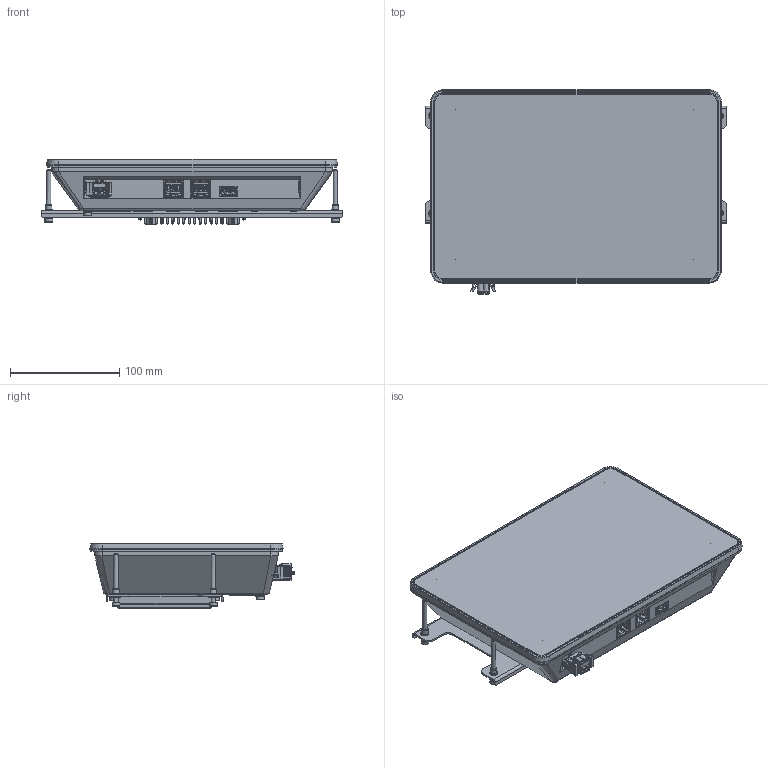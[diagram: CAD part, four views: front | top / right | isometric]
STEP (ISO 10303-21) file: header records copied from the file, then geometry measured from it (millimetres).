
FILE_DESCRIPTION(/* description */ (''),/* implementation_level */ '2;1');
FILE_NAME(/* name */ 'D:\Modelle vereinfacht\notion.F\778-21972-02\778-21972-02_EXTERN.stp',/* time_stamp */ '2024-07-08T11:58:42+02:00',/* author */ ('Blessing'),/* organization */ (''),/* preprocessor_version */ 'ST-DEVELOPER v18.1',/* originating_system */ 'Autodesk Inventor 2021',/* authorisation */ '');
FILE_SCHEMA (('AUTOMOTIVE_DESIGN { 1 0 10303 214 3 1 1 }'));
Products named in the file (3): Baugruppe1; 778-21972-02_EXTERN; Einbau Montagekit_EXTERN
Assembly tree (2 placements, depth 2):
  Baugruppe1
    778-21972-02_EXTERN
    Einbau Montagekit_EXTERN
Bounding box: 276 x 186.85 x 59.73 mm (x, y, z)
Volume: 1881120.9 mm3; surface area: 262531.9 mm2
Topology: 3 solids, 26 shells, 10152 faces, 26967 edges, 17188 vertices
Faces by surface type: plane 5341, cylinder 2316, bspline 2251, cone 185, torus 46, sphere 13
Full cylindrical faces by diameter (mm): 0.4 x4, 0.434 x1, 0.457 x1, 0.8 x4, 1.4 x2, 3.242 x9, 3.8 x6, 4 x15, 4.3 x5, 4.4 x4, 5 x4, 5.54 x6, 5.9 x8, 6 x5, 6.5 x1, 7 x10, 9 x4, 16.312 x1
Entity records: 354757 total; most frequent: CARTESIAN_POINT 108501, ORIENTED_EDGE 53768, DIRECTION 43560, EDGE_CURVE 26884, LINE 17406, VECTOR 17406, VERTEX_POINT 17188, AXIS2_PLACEMENT_3D 13077
